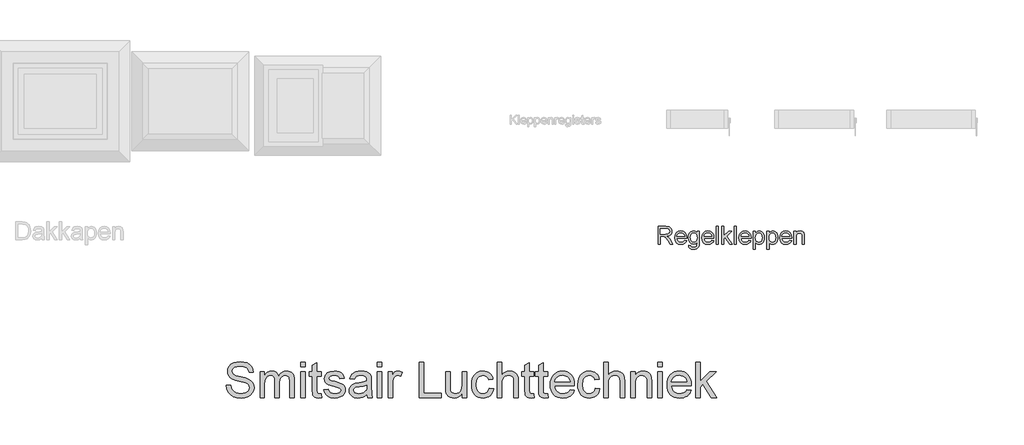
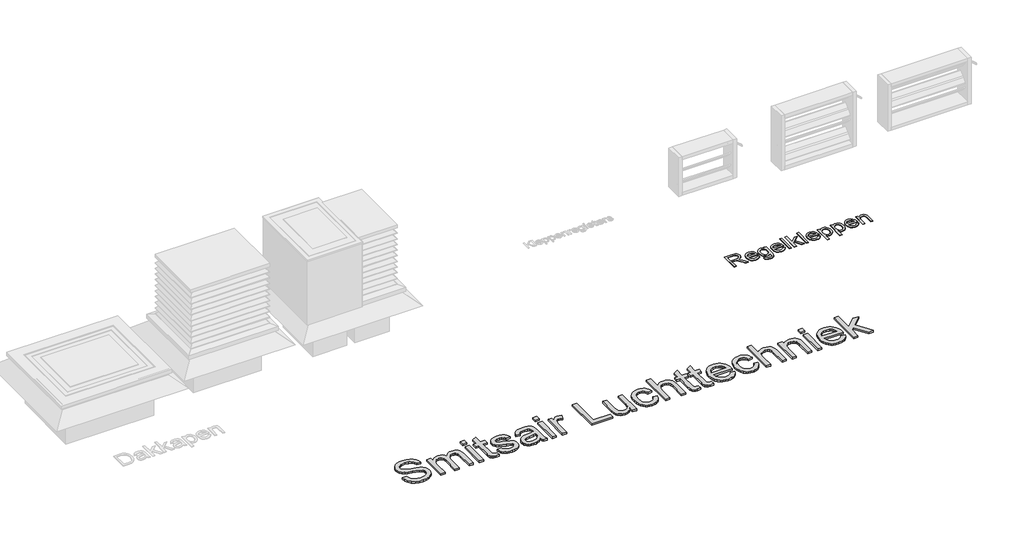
# One storey, part 5 of 10: 2 proxies.
"""IFC4 building model written with IfcOpenShell, lengths in millimetres."""

from ifc_helpers import new_model, si_unit, origin, origin_with_axes, place, context, project, spatial, polyline, outline, extrude, element, save

model = new_model("IFC4")

# Units and contexts
model_context = context("Model", 3, world=origin())
ifc_project = project(units=[si_unit("LENGTHUNIT", "METRE", prefix="MILLI")], contexts=[model_context])

# Site, building, storey
site = spatial("IfcSite", under=ifc_project)
building = spatial("IfcBuilding", under=site)
storey = spatial("IfcBuildingStorey", under=building, Name="Ventilatieroosters", Elevation=0.0)

# Proxies
placement = place(None, origin())
element("IfcBuildingElementProxy", 1, Name="200mm", ObjectType="200mm", at=placement, inside=storey, context=model_context, shape_type="SweptSolid", body=[
    extrude(outline(polyline([(12075.8280832, -16419.2793753), (12075.8280832, -16222.3562984), (12160.6838524, -16222.3562984), (12183.4903428, -16223.6844234), (12200.0828909, -16227.6687984), (12212.2102947, -16235.0245676), (12221.6213524, -16246.4668753), (12227.6610159, -16260.6555772), (12229.674237, -16276.2505291), (12226.3389005, -16295.6495676), (12216.3328909, -16311.7312984), (12199.3557274, -16323.5221637), (12175.1069293, -16330.048606), (12189.0973139, -16340.5774522), (12209.049237, -16365.9139907), (12241.8857755, -16419.2793753), (12213.2800063, -16419.2793753), (12187.6550063, -16378.4620676), (12169.1453909, -16351.4428368), (12156.1405832, -16338.6784137), (12144.4338524, -16333.9909137), (12130.1550063, -16333.1255291), (12100.4434678, -16333.1255291), (12100.4434678, -16419.2793753), (12075.8280832, -16419.2793753)]), holes=[polyline([(12100.4434678, -16308.5101445), (12155.5396216, -16308.5101445), (12183.6405832, -16305.0245676), (12199.6021216, -16293.8707214), (12205.0588524, -16277.1639907), (12202.4566889, -16265.1567791), (12194.6501986, -16255.4812984), (12181.2187082, -16249.0990868), (12161.7415447, -16246.971683), (12100.4434678, -16246.971683), (12100.4434678, -16308.5101445)])]), origin_with_axes(), (0.0, 0.0, 1.0), 5.0),
    extrude(outline(polyline([(12370.924237, -16376.2024522), (12395.0588524, -16379.2793753), (12386.3629389, -16397.4644714), (12372.486737, -16411.0582214), (12353.7427466, -16419.5317791), (12330.4434678, -16422.3562984), (12301.5612563, -16417.4825003), (12279.3376986, -16402.861106), (12265.1670255, -16379.4416349), (12260.4434678, -16348.173606), (12265.2151024, -16315.8538945), (12279.5300063, -16291.6832214), (12301.4530832, -16276.611106), (12329.049237, -16271.5870676), (12355.7860159, -16276.5990868), (12377.1501986, -16291.6351445), (12391.158612, -16315.7577407), (12395.8280832, -16348.0293753), (12395.6838524, -16354.6639907), (12285.0588524, -16354.6639907), (12289.3196697, -16373.0894714), (12299.2175063, -16386.6351445), (12313.502362, -16394.9644714), (12330.924237, -16397.7409137), (12355.0588524, -16392.596683), (12364.0251986, -16385.9260099), (12370.924237, -16376.2024522)]), holes=[polyline([(12285.0588524, -16330.048606), (12371.2126986, -16330.048606), (12367.8833716, -16317.0437984), (12361.3569293, -16307.7409137), (12347.0059678, -16299.0870676), (12328.9530832, -16296.2024522), (12312.3605351, -16298.5041349), (12298.6405832, -16305.409183), (12289.1033236, -16316.1724041), (12285.0588524, -16330.048606)])]), origin_with_axes(), (0.0, 0.0, 1.0), 5.0),
    extrude(outline(polyline([(12414.2896216, -16431.5870676), (12438.9050063, -16434.6639907), (12441.6213524, -16442.3562984), (12446.8857755, -16447.6447599), (12457.2343332, -16451.7553368), (12470.7800063, -16453.1255291), (12485.2271216, -16451.5750484), (12495.9723139, -16446.923606), (12503.424237, -16439.471683), (12507.9915447, -16429.5197599), (12509.674237, -16400.8178368), (12492.3425063, -16414.6639907), (12471.2126986, -16419.2793753), (12445.8340928, -16413.9067791), (12426.9098139, -16397.7889907), (12415.1369774, -16374.159183), (12411.2126986, -16346.2505291), (12412.9735159, -16326.376731), (12418.2559678, -16308.1014907), (12426.8737563, -16292.6147118), (12438.6405832, -16281.1062984), (12453.1538043, -16273.9668753), (12470.0107755, -16271.5870676), (12491.9699101, -16276.971683), (12509.674237, -16293.1255291), (12509.674237, -16274.6639907), (12534.2896216, -16274.6639907), (12534.2896216, -16399.5197599), (12532.6069293, -16428.3478849), (12527.5588524, -16447.3322599), (12518.8629389, -16459.9224041), (12506.236737, -16469.5678368), (12489.9566889, -16475.6976445), (12470.299237, -16477.7409137), (12447.3965928, -16474.862308), (12429.361737, -16466.2264907), (12417.7932274, -16451.8094234), (12414.2896216, -16431.5870676)]), holes=[polyline([(12435.8280832, -16344.5678368), (12438.4542851, -16367.1459618), (12446.3328909, -16382.6687984), (12458.1778428, -16391.6651926), (12472.7030832, -16394.6639907), (12487.1201505, -16391.6832214), (12499.0251986, -16382.7409137), (12507.0119774, -16367.4163945), (12509.674237, -16345.2889907), (12506.9338524, -16323.9488464), (12498.7126986, -16308.5822599), (12486.6333716, -16299.2974041), (12472.3184678, -16296.2024522), (12458.2619774, -16299.2493272), (12446.4771216, -16308.3899522), (12438.4903428, -16323.5281734), (12435.8280832, -16344.5678368)])]), origin_with_axes(), (0.0, 0.0, 1.0), 5.0),
    extrude(outline(polyline([(12672.4626986, -16376.2024522), (12696.5973139, -16379.2793753), (12687.9014005, -16397.4644714), (12674.0251986, -16411.0582214), (12655.2812082, -16419.5317791), (12631.9819293, -16422.3562984), (12603.0997178, -16417.4825003), (12580.8761601, -16402.861106), (12566.705487, -16379.4416349), (12561.9819293, -16348.173606), (12566.7535639, -16315.8538945), (12581.0684678, -16291.6832214), (12602.9915447, -16276.611106), (12630.5876986, -16271.5870676), (12657.3244774, -16276.5990868), (12678.6886601, -16291.6351445), (12692.6970736, -16315.7577407), (12697.3665447, -16348.0293753), (12697.2223139, -16354.6639907), (12586.5973139, -16354.6639907), (12590.8581313, -16373.0894714), (12600.7559678, -16386.6351445), (12615.0408236, -16394.9644714), (12632.4626986, -16397.7409137), (12656.5973139, -16392.596683), (12665.5636601, -16385.9260099), (12672.4626986, -16376.2024522)]), holes=[polyline([(12586.5973139, -16330.048606), (12672.7511601, -16330.048606), (12669.4218332, -16317.0437984), (12662.8953909, -16307.7409137), (12648.5444293, -16299.0870676), (12630.4915447, -16296.2024522), (12613.8989966, -16298.5041349), (12600.1790447, -16305.409183), (12590.6417851, -16316.1724041), (12586.5973139, -16330.048606)])]), origin_with_axes(), (0.0, 0.0, 1.0), 5.0),
    extrude(outline(polyline([(12721.9819293, -16419.2793753), (12721.9819293, -16222.3562984), (12746.5973139, -16222.3562984), (12746.5973139, -16419.2793753), (12721.9819293, -16419.2793753)])), origin_with_axes(), (0.0, 0.0, 1.0), 5.0),
    extrude(outline(polyline([(12783.5203909, -16419.2793753), (12783.5203909, -16222.3562984), (12808.1357755, -16222.3562984), (12808.1357755, -16328.173606), (12863.3280832, -16274.6639907), (12897.3665447, -16274.6639907), (12841.5011601, -16328.846683), (12900.4434678, -16419.2793753), (12871.6934678, -16419.2793753), (12823.8569293, -16345.9620676), (12808.1357755, -16361.2024522), (12808.1357755, -16419.2793753), (12783.5203909, -16419.2793753)])), origin_with_axes(), (0.0, 0.0, 1.0), 5.0),
    extrude(outline(polyline([(12921.9819293, -16419.2793753), (12921.9819293, -16222.3562984), (12946.5973139, -16222.3562984), (12946.5973139, -16419.2793753), (12921.9819293, -16419.2793753)])), origin_with_axes(), (0.0, 0.0, 1.0), 5.0),
    extrude(outline(polyline([(13084.7703909, -16376.2024522), (13108.9050063, -16379.2793753), (13100.2090928, -16397.4644714), (13086.3328909, -16411.0582214), (13067.5889005, -16419.5317791), (13044.2896216, -16422.3562984), (13015.4074101, -16417.4825003), (12993.1838524, -16402.861106), (12979.0131793, -16379.4416349), (12974.2896216, -16348.173606), (12979.0612563, -16315.8538945), (12993.3761601, -16291.6832214), (13015.299237, -16276.611106), (13042.8953909, -16271.5870676), (13069.6321697, -16276.5990868), (13090.9963524, -16291.6351445), (13105.0047659, -16315.7577407), (13109.674237, -16348.0293753), (13109.5300063, -16354.6639907), (12998.9050063, -16354.6639907), (13003.1658236, -16373.0894714), (13013.0636601, -16386.6351445), (13027.3485159, -16394.9644714), (13044.7703909, -16397.7409137), (13068.9050063, -16392.596683), (13077.8713524, -16385.9260099), (13084.7703909, -16376.2024522)]), holes=[polyline([(12998.9050063, -16330.048606), (13085.0588524, -16330.048606), (13081.7295255, -16317.0437984), (13075.2030832, -16307.7409137), (13060.8521216, -16299.0870676), (13042.799237, -16296.2024522), (13026.2066889, -16298.5041349), (13012.486737, -16305.409183), (13002.9494774, -16316.1724041), (12998.9050063, -16330.048606)])]), origin_with_axes(), (0.0, 0.0, 1.0), 5.0),
    extrude(outline(polyline([(13134.2896216, -16474.6639907), (13134.2896216, -16274.6639907), (13158.9050063, -16274.6639907), (13158.9050063, -16298.798606), (13175.924237, -16278.3899522), (13186.4050063, -16273.2877887), (13198.9050063, -16271.5870676), (13215.5516409, -16273.9668753), (13230.1069293, -16281.1062984), (13241.9578909, -16292.5726445), (13250.4915447, -16307.9332214), (13255.6477947, -16326.0702407), (13257.3665447, -16345.8659137), (13255.4254389, -16366.9175964), (13249.6021216, -16385.7457214), (13240.0828909, -16401.3947599), (13227.0540447, -16412.909183), (13211.8797659, -16419.9945195), (13195.924237, -16422.3562984), (13184.6081313, -16420.7757695), (13174.5059678, -16416.034183), (13158.9050063, -16400.048606), (13158.9050063, -16474.6639907), (13134.2896216, -16474.6639907)]), holes=[polyline([(13158.9050063, -16348.1255291), (13161.5672659, -16370.1928368), (13169.5540447, -16385.6255291), (13181.3389005, -16394.7120676), (13195.3953909, -16397.7409137), (13209.6802466, -16394.6038945), (13221.7655832, -16385.1928368), (13230.0047659, -16369.1952407), (13232.7511601, -16346.298606), (13230.0708716, -16324.3514907), (13222.0300063, -16308.7024522), (13210.2631793, -16299.3274522), (13196.4050063, -16296.2024522), (13182.4927466, -16299.5257695), (13170.2751986, -16309.4957214), (13161.7475543, -16325.799808), (13158.9050063, -16348.1255291)])]), origin_with_axes(), (0.0, 0.0, 1.0), 5.0),
    extrude(outline(polyline([(13285.0588524, -16474.6639907), (13285.0588524, -16274.6639907), (13309.674237, -16274.6639907), (13309.674237, -16298.798606), (13326.6934678, -16278.3899522), (13337.174237, -16273.2877887), (13349.674237, -16271.5870676), (13366.3208716, -16273.9668753), (13380.8761601, -16281.1062984), (13392.7271216, -16292.5726445), (13401.2607755, -16307.9332214), (13406.4170255, -16326.0702407), (13408.1357755, -16345.8659137), (13406.1946697, -16366.9175964), (13400.3713524, -16385.7457214), (13390.8521216, -16401.3947599), (13377.8232755, -16412.909183), (13362.6489966, -16419.9945195), (13346.6934678, -16422.3562984), (13335.377362, -16420.7757695), (13325.2751986, -16416.034183), (13309.674237, -16400.048606), (13309.674237, -16474.6639907), (13285.0588524, -16474.6639907)]), holes=[polyline([(13309.674237, -16348.1255291), (13312.3364966, -16370.1928368), (13320.3232755, -16385.6255291), (13332.1081313, -16394.7120676), (13346.1646216, -16397.7409137), (13360.4494774, -16394.6038945), (13372.5348139, -16385.1928368), (13380.7739966, -16369.1952407), (13383.5203909, -16346.298606), (13380.8401024, -16324.3514907), (13372.799237, -16308.7024522), (13361.0324101, -16299.3274522), (13347.174237, -16296.2024522), (13333.2619774, -16299.5257695), (13321.0444293, -16309.4957214), (13312.5167851, -16325.799808), (13309.674237, -16348.1255291)])]), origin_with_axes(), (0.0, 0.0, 1.0), 5.0),
    extrude(outline(polyline([(13537.0780832, -16376.2024522), (13561.2126986, -16379.2793753), (13552.5167851, -16397.4644714), (13538.6405832, -16411.0582214), (13519.8965928, -16419.5317791), (13496.5973139, -16422.3562984), (13467.7151024, -16417.4825003), (13445.4915447, -16402.861106), (13431.3208716, -16379.4416349), (13426.5973139, -16348.173606), (13431.3689486, -16315.8538945), (13445.6838524, -16291.6832214), (13467.6069293, -16276.611106), (13495.2030832, -16271.5870676), (13521.939862, -16276.5990868), (13543.3040447, -16291.6351445), (13557.3124582, -16315.7577407), (13561.9819293, -16348.0293753), (13561.8376986, -16354.6639907), (13451.2126986, -16354.6639907), (13455.4735159, -16373.0894714), (13465.3713524, -16386.6351445), (13479.6562082, -16394.9644714), (13497.0780832, -16397.7409137), (13521.2126986, -16392.596683), (13530.1790447, -16385.9260099), (13537.0780832, -16376.2024522)]), holes=[polyline([(13451.2126986, -16330.048606), (13537.3665447, -16330.048606), (13534.0372178, -16317.0437984), (13527.5107755, -16307.7409137), (13513.1598139, -16299.0870676), (13495.1069293, -16296.2024522), (13478.5143813, -16298.5041349), (13464.7944293, -16305.409183), (13455.2571697, -16316.1724041), (13451.2126986, -16330.048606)])]), origin_with_axes(), (0.0, 0.0, 1.0), 5.0),
    extrude(outline(polyline([(13586.5973139, -16419.2793753), (13586.5973139, -16274.6639907), (13611.2126986, -16274.6639907), (13611.2126986, -16294.8562984), (13619.7643813, -16284.6760099), (13630.0348139, -16277.4043753), (13642.0239966, -16273.0413945), (13655.7319293, -16271.5870676), (13678.9771216, -16276.2745676), (13694.8425063, -16288.5822599), (13702.2223139, -16306.6832214), (13703.5203909, -16330.4812984), (13703.5203909, -16419.2793753), (13678.9050063, -16419.2793753), (13678.9050063, -16333.798606), (13676.0684678, -16312.0197599), (13666.0444293, -16300.5053368), (13649.1453909, -16296.2024522), (13634.7283236, -16298.6183176), (13622.4386601, -16305.8659137), (13614.0191889, -16319.8683176), (13611.2126986, -16342.548606), (13611.2126986, -16419.2793753), (13586.5973139, -16419.2793753)])), origin_with_axes(), (0.0, 0.0, 1.0), 5.0),
])
element("IfcBuildingElementProxy", 2, Name="400mm", ObjectType="400mm", at=placement, inside=storey, context=model_context, shape_type="SweptSolid", body=[
    extrude(outline(polyline([(7278.3302361, -17988.9829215), (7327.2999331, -17988.9829215), (7332.9190145, -18016.1577558), (7343.0811831, -18038.0004404), (7358.934166, -18055.3359045), (7381.6256907, -18068.9890768), (7409.3624331, -18077.8480967), (7440.3510695, -18080.8011033), (7467.6335032, -18078.5654262), (7491.520577, -18071.858395), (7510.8765193, -18061.2419177), (7524.5655581, -18047.2779026), (7532.7072484, -18031.2455872), (7535.4211452, -18014.4242094), (7533.3887115, -17998.0332293), (7527.2914104, -17983.8659708), (7514.9055202, -17971.7789679), (7494.0073195, -17961.6287548), (7422.7047626, -17942.9303647), (7375.8990098, -17930.55643), (7345.9505013, -17918.78027), (7321.5732522, -17902.3056014), (7304.2975657, -17882.3399291), (7294.0038867, -17859.3136507), (7290.5726604, -17833.6571639), (7294.8168602, -17804.9759376), (7307.5494596, -17778.2315011), (7328.4357049, -17755.5638874), (7357.1408422, -17739.1131298), (7391.5965713, -17729.1063827), (7429.7345922, -17725.7708003), (7471.052774, -17729.2618041), (7507.2061831, -17739.7348154), (7536.9036263, -17756.9746355), (7558.8539104, -17780.7660654), (7572.7461926, -17809.6266242), (7578.2696301, -17842.0738306), (7529.2999331, -17842.0738306), (7520.3094028, -17812.8546071), (7501.5631907, -17791.7651185), (7472.2722342, -17778.9966526), (7431.647471, -17774.7404973), (7390.0662683, -17778.9488306), (7374.1714411, -17784.2092473), (7361.5404634, -17791.5738306), (7345.0418838, -17810.1526658), (7339.5423573, -17832.2225048), (7343.4398479, -17851.0404499), (7355.1323195, -17866.1761033), (7382.7734179, -17879.7097208), (7435.0906528, -17893.53027), (7489.0816566, -17906.6574007), (7521.7440619, -17918.1107624), (7549.6601367, -17935.8766242), (7569.1356338, -17957.8029973), (7580.5770401, -17983.6507719), (7584.3908422, -18013.1808382), (7580.0031765, -18043.3684565), (7566.8401793, -18071.7627511), (7545.4398479, -18096.1997776), (7516.3401793, -18114.515592), (7481.346453, -18125.9569982), (7442.2639482, -18129.7708003), (7394.2865571, -18125.6581109), (7354.7975657, -18113.3200427), (7323.3426651, -18092.7087738), (7299.4675467, -18063.7764821), (7284.1406054, -18028.5316904), (7278.3302361, -17988.9829215)])), origin_with_axes(), (0.0, 0.0, 1.0), 20.0),
    extrude(outline(polyline([(7651.7241755, -18123.6495882), (7651.7241755, -17835.9526185), (7700.6938725, -17835.9526185), (7700.6938725, -17883.2963685), (7715.4230392, -17861.5493278), (7734.3605392, -17844.5127511), (7756.8607759, -17833.5017425), (7782.2781528, -17829.8314064), (7809.5127645, -17833.5734755), (7831.3434937, -17844.7996829), (7847.6507854, -17862.768788), (7858.3150846, -17886.7395503), (7876.1646348, -17861.8422373), (7896.5248384, -17844.0584423), (7919.3956954, -17833.3881654), (7944.7772058, -17829.8314064), (7964.3812245, -17831.3108985), (7981.588167, -17835.7493751), (7996.3980332, -17843.146836), (8008.8108232, -17853.5032814), (8018.6232936, -17866.938266), (8025.6322011, -17883.5713448), (8029.8375455, -17903.4025179), (8031.239327, -17926.4317851), (8031.239327, -18123.6495882), (7982.2696301, -18123.6495882), (7982.2696301, -17947.4734518), (7977.7265429, -17906.5856677), (7971.34231, -17895.3116384), (7961.2757854, -17886.4526185), (7948.3279871, -17880.7139821), (7933.2999331, -17878.8011033), (7906.7706954, -17883.7028552), (7885.1432096, -17898.4081109), (7876.7534428, -17909.688118), (7870.7607522, -17923.9211317), (7865.9665998, -17961.2461791), (7865.9665998, -18123.6495882), (7816.9969028, -18123.6495882), (7816.9969028, -17942.0217473), (7814.1634511, -17914.3328268), (7805.663096, -17894.5823533), (7790.7067749, -17882.7464158), (7768.5054255, -17878.8011033), (7749.6396585, -17881.4313117), (7732.2563725, -17889.3219367), (7717.9097816, -17902.2816904), (7708.1540998, -17920.1192851), (7702.5589293, -17944.8671545), (7700.6938725, -17978.5577321), (7700.6938725, -18123.6495882), (7651.7241755, -18123.6495882)])), origin_with_axes(), (0.0, 0.0, 1.0), 20.0),
    extrude(outline(polyline([(8104.6938725, -17780.8617094), (8104.6938725, -17731.8920124), (8153.6635695, -17731.8920124), (8153.6635695, -17780.8617094), (8104.6938725, -17780.8617094)])), origin_with_axes(), (0.0, 0.0, 1.0), 20.0),
    extrude(outline(polyline([(8104.6938725, -18123.6495882), (8104.6938725, -17835.9526185), (8153.6635695, -17835.9526185), (8153.6635695, -18123.6495882), (8104.6938725, -18123.6495882)])), origin_with_axes(), (0.0, 0.0, 1.0), 20.0),
    extrude(outline(polyline([(8331.178721, -18082.8096261), (8337.2999331, -18125.0842473), (8300.6683043, -18129.7708003), (8277.1638062, -18127.7383666), (8259.6370543, -18121.6410654), (8247.2511642, -18112.2440484), (8239.1692513, -18100.312467), (8234.7218081, -18079.8207529), (8233.239327, -18044.7433382), (8233.239327, -17884.9223154), (8196.5120543, -17884.9223154), (8196.5120543, -17835.9526185), (8233.239327, -17835.9526185), (8233.239327, -17766.0368988), (8282.209024, -17737.248073), (8282.209024, -17835.9526185), (8331.178721, -17835.9526185), (8331.178721, -17884.9223154), (8282.209024, -17884.9223154), (8282.209024, -18043.3086791), (8284.7914104, -18068.5586791), (8293.1602551, -18077.5013874), (8309.8501225, -18080.8011033), (8331.178721, -18082.8096261)])), origin_with_axes(), (0.0, 0.0, 1.0), 20.0),
    extrude(outline(polyline([(8361.7847816, -18037.9526185), (8410.7544785, -18031.8314064), (8418.4777267, -18052.7774291), (8433.4220922, -18068.1761033), (8455.6832191, -18077.6448533), (8485.3567513, -18080.8011033), (8514.6716187, -18077.9078742), (8535.2828876, -18069.2281867), (8547.4774899, -18056.6510086), (8551.5423573, -18042.0653079), (8547.4535789, -18029.5837738), (8535.1872437, -18020.0672018), (8484.7828876, -18006.1031867), (8411.0414104, -17982.1443798), (8392.3788867, -17970.105199), (8378.8572248, -17954.1685276), (8370.6438015, -17935.3505825), (8367.9059937, -17914.6675806), (8370.1058043, -17895.6942141), (8376.7052361, -17878.1794177), (8387.1065145, -17862.81661), (8400.7118649, -17850.2992094), (8431.8439672, -17835.8091526), (8473.9751225, -17829.8314064), (8505.8484653, -17832.2344603), (8533.5612967, -17839.4436223), (8555.8463346, -17850.7535181), (8571.4362967, -17865.4587738), (8581.7658422, -17884.6473391), (8588.2696301, -17909.4071639), (8539.2999331, -17915.5283761), (8533.1189435, -17900.1177463), (8520.8884748, -17888.5089632), (8502.4889719, -17881.2280683), (8477.8008801, -17878.8011033), (8449.6815619, -17881.1204689), (8430.9353498, -17888.0785654), (8420.3906054, -17898.1211791), (8416.8756907, -17909.6940958), (8422.709971, -17923.9450427), (8440.9779634, -17934.7528079), (8483.1569407, -17945.1779973), (8555.0333611, -17968.2281867), (8574.0186831, -17979.2511507), (8588.413096, -17994.3389821), (8597.4873147, -18013.5395029), (8600.5120543, -18036.9005351), (8596.9612731, -18061.0506298), (8586.3089293, -18083.7660654), (8568.9615098, -18103.2654736), (8545.3255013, -18117.7674859), (8516.7757854, -18126.7699717), (8484.6872437, -18129.7708003), (8458.3313606, -18128.3241857), (8435.31106, -18123.984342), (8415.6263417, -18116.751269), (8399.2772058, -18106.624967), (8385.9229208, -18093.6532577), (8375.2227551, -18077.8839632), (8367.1767087, -18059.3170834), (8361.7847816, -18037.9526185)])), origin_with_axes(), (0.0, 0.0, 1.0), 20.0),
    extrude(outline(polyline([(8839.239327, -18086.9223154), (8815.8424284, -18106.9836317), (8791.7521111, -18120.1107624), (8766.4184227, -18127.3557908), (8739.2914104, -18129.7708003), (8717.4875811, -18128.318208), (8698.3677598, -18123.960431), (8681.9319466, -18116.6974693), (8668.1801414, -18106.529323), (8657.3215654, -18094.1015887), (8649.5654397, -18080.0598628), (8644.9117643, -18064.4041455), (8643.3605392, -18047.1344367), (8645.7038157, -18026.8340105), (8652.7336452, -18008.3986412), (8663.5772768, -17992.6173912), (8677.3619596, -17980.279323), (8711.6503119, -17964.2111412), (8754.020577, -17956.8465579), (8804.0901793, -17949.0993988), (8838.9523952, -17940.0132245), (8839.239327, -17929.1098154), (8835.8678782, -17907.2551753), (8825.7535316, -17892.9564064), (8803.1337399, -17882.3399291), (8771.6190619, -17878.8011033), (8742.4476604, -17881.1563353), (8722.0755013, -17888.2220314), (8708.1832191, -17901.2893846), (8698.4514482, -17921.6495882), (8649.4817513, -17915.5283761), (8657.9821064, -17888.748073), (8670.6668838, -17867.7064064), (8688.7196774, -17851.6143136), (8713.3240808, -17839.6827321), (8743.4160552, -17832.2942378), (8777.9315619, -17829.8314064), (8811.0363204, -17832.007306), (8837.2786263, -17838.5350048), (8857.0649662, -17848.3504641), (8870.801827, -17860.389645), (8879.9119123, -17875.2742331), (8885.8179255, -17893.6259139), (8888.209024, -17936.4743988), (8888.209024, -17997.3995882), (8890.6957664, -18082.4748723), (8900.4514482, -18123.6495882), (8851.4817513, -18123.6495882), (8843.6389482, -18106.624967), (8839.239327, -18086.9223154)]), holes=[polyline([(8839.239327, -17988.9829215), (8806.3378119, -17997.1365673), (8760.2374331, -18003.99902), (8718.1062778, -18011.937467), (8707.1430912, -18017.3652605), (8699.0253119, -18024.8493988), (8694.0040051, -18033.8160181), (8692.3302361, -18043.6912548), (8695.9766613, -18058.2530446), (8706.9159369, -18070.1846261), (8724.908953, -18078.146984), (8749.7165998, -18080.8011033), (8776.0186831, -18077.8720077), (8799.2601604, -18069.0847208), (8818.1020164, -18056.1369225), (8831.2052361, -18040.7262927), (8837.0156054, -18024.8493988), (8838.9523952, -18002.8512927), (8839.239327, -17988.9829215)])]), origin_with_axes(), (0.0, 0.0, 1.0), 20.0),
    extrude(outline(polyline([(8955.5423573, -17780.8617094), (8955.5423573, -17731.8920124), (9004.5120543, -17731.8920124), (9004.5120543, -17780.8617094), (8955.5423573, -17780.8617094)])), origin_with_axes(), (0.0, 0.0, 1.0), 20.0),
    extrude(outline(polyline([(8955.5423573, -18123.6495882), (8955.5423573, -17835.9526185), (9004.5120543, -17835.9526185), (9004.5120543, -18123.6495882), (8955.5423573, -18123.6495882)])), origin_with_axes(), (0.0, 0.0, 1.0), 20.0),
    extrude(outline(polyline([(9077.9665998, -18123.6495882), (9077.9665998, -17835.9526185), (9120.8150846, -17835.9526185), (9120.8150846, -17878.5141715), (9136.6441566, -17853.8380351), (9151.2298573, -17839.3001564), (9165.8633801, -17832.1985939), (9181.8359179, -17829.8314064), (9206.2251225, -17833.609342), (9230.9969028, -17844.9431488), (9214.6417892, -17888.843717), (9197.4258801, -17881.3117567), (9180.209971, -17878.8011033), (9165.5884037, -17881.2161128), (9152.5210505, -17888.4611412), (9141.9643507, -17899.9862359), (9134.8747437, -17915.2414442), (9128.9209085, -17942.5956109), (9126.9362967, -17972.43652), (9126.9362967, -18123.6495882), (9077.9665998, -18123.6495882)])), origin_with_axes(), (0.0, 0.0, 1.0), 20.0),
    extrude(outline(polyline([(9420.7544785, -18123.6495882), (9420.7544785, -17731.8920124), (9469.7241755, -17731.8920124), (9469.7241755, -18074.6798912), (9665.6029634, -18074.6798912), (9665.6029634, -18123.6495882), (9420.7544785, -18123.6495882)])), origin_with_axes(), (0.0, 0.0, 1.0), 20.0),
    extrude(outline(polyline([(9898.209024, -18123.6495882), (9898.209024, -18074.2016715), (9880.4909842, -18098.5131654), (9859.8558043, -18115.8785181), (9836.3034842, -18126.2977297), (9809.834024, -18129.7708003), (9785.9828166, -18127.3318798), (9763.7814672, -18120.0151185), (9745.15481, -18109.0160654), (9732.0276793, -18095.53027), (9723.1925704, -18079.1512454), (9717.4419785, -18059.4725048), (9714.5726604, -18013.9459897), (9714.5726604, -17835.9526185), (9763.5423573, -17835.9526185), (9763.5423573, -17990.8958003), (9766.5073195, -18040.8219367), (9773.6447484, -18057.4759376), (9785.8752172, -18070.1368041), (9802.3857522, -18078.1350285), (9822.3633801, -18080.8011033), (9843.4887352, -18078.0752511), (9863.2511642, -18069.8976942), (9879.5465003, -18057.0216289), (9890.270577, -18040.2002511), (9896.2244123, -18017.1620172), (9898.209024, -17985.6353836), (9898.209024, -17835.9526185), (9947.178721, -17835.9526185), (9947.178721, -18123.6495882), (9898.209024, -18123.6495882)])), origin_with_axes(), (0.0, 0.0, 1.0), 20.0),
    extrude(outline(polyline([(10198.1484179, -18019.5889821), (10247.1181149, -18025.7101942), (10241.791943, -18048.8171722), (10233.4649426, -18069.2640531), (10222.1371135, -18087.050837), (10207.8084558, -18102.1775238), (10191.0827219, -18114.2495823), (10172.5636642, -18122.8724812), (10152.2512825, -18128.0462205), (10130.145577, -18129.7708003), (10102.6808221, -18127.3647574), (10078.0554965, -18120.1466289), (10056.2696005, -18108.1164146), (10037.3231338, -18091.2741147), (10021.9872259, -18069.9365496), (10011.033006, -18044.4205399), (10004.460474, -18014.7260856), (10002.2696301, -17980.8531867), (10006.0116992, -17937.2754168), (10017.2379066, -17899.5080162), (10036.1275846, -17869.009555), (10062.8600657, -17847.2386033), (10094.8410079, -17834.1832056), (10129.4760695, -17829.8314064), (10151.2021881, -17831.3258429), (10170.8540287, -17835.8091526), (10188.4315915, -17843.2813353), (10203.9348763, -17853.7423912), (10217.1008623, -17866.9532103), (10227.6665287, -17882.6746829), (10235.6318756, -17900.9068088), (10240.9969028, -17921.6495882), (10192.0272058, -17927.7708003), (10183.1442749, -17906.4063353), (10169.3117702, -17891.0913495), (10151.2948431, -17881.8736649), (10129.8586452, -17878.8011033), (10113.2195886, -17880.3134731), (10098.2124568, -17884.8505825), (10084.8372496, -17892.4124315), (10073.0939672, -17902.99902), (10063.5325621, -17916.8554357), (10056.7029871, -17934.2267662), (10051.239327, -17979.5141715), (10056.5834321, -18025.4113069), (10063.2635635, -18042.8992035), (10072.6157475, -18056.7466526), (10084.1258978, -18067.2704748), (10097.2799284, -18074.7874906), (10112.0778391, -18079.2977002), (10128.5196301, -18080.8011033), (10153.8772295, -18077.0470787), (10174.6678308, -18065.7850048), (10189.7915287, -18046.7279499), (10198.1484179, -18019.5889821)])), origin_with_axes(), (0.0, 0.0, 1.0), 20.0),
    extrude(outline(polyline([(10289.9665998, -18123.6495882), (10289.9665998, -17731.8920124), (10338.9362967, -17731.8920124), (10338.9362967, -17875.9317851), (10356.9233351, -17855.7628694), (10377.1221395, -17841.3565011), (10399.5327101, -17832.71268), (10424.1550467, -17829.8314064), (10453.732935, -17832.9757009), (10479.1503119, -17842.4085844), (10499.1638062, -17857.3888164), (10512.5300467, -17877.1751564), (10520.062007, -17904.3619461), (10522.5726604, -17941.5435276), (10522.5726604, -18123.6495882), (10473.6029634, -18123.6495882), (10473.6029634, -17946.6126564), (10469.7054729, -17915.9587738), (10458.0130013, -17894.9649291), (10439.1711452, -17882.8420598), (10413.8255013, -17878.8011033), (10393.1305439, -17881.5269556), (10373.7028687, -17889.7045124), (10357.6107759, -17902.5447113), (10346.9225657, -17919.2584897), (10340.932864, -17941.4717946), (10338.9362967, -17970.810573), (10338.9362967, -18123.6495882), (10289.9665998, -18123.6495882)])), origin_with_axes(), (0.0, 0.0, 1.0), 20.0),
    extrude(outline(polyline([(10693.9665998, -18082.8096261), (10700.0878119, -18125.0842473), (10663.4561831, -18129.7708003), (10639.951685, -18127.7383666), (10622.4249331, -18121.6410654), (10610.0390429, -18112.2440484), (10601.9571301, -18100.312467), (10597.5096869, -18079.8207529), (10596.0272058, -18044.7433382), (10596.0272058, -17884.9223154), (10559.2999331, -17884.9223154), (10559.2999331, -17835.9526185), (10596.0272058, -17835.9526185), (10596.0272058, -17766.0368988), (10644.9969028, -17737.248073), (10644.9969028, -17835.9526185), (10693.9665998, -17835.9526185), (10693.9665998, -17884.9223154), (10644.9969028, -17884.9223154), (10644.9969028, -18043.3086791), (10647.5792892, -18068.5586791), (10655.9481338, -18077.5013874), (10672.6380013, -18080.8011033), (10693.9665998, -18082.8096261)])), origin_with_axes(), (0.0, 0.0, 1.0), 20.0),
    extrude(outline(polyline([(10846.9969028, -18082.8096261), (10853.1181149, -18125.0842473), (10816.4864861, -18129.7708003), (10792.981988, -18127.7383666), (10775.4552361, -18121.6410654), (10763.069346, -18112.2440484), (10754.9874331, -18100.312467), (10750.5399899, -18079.8207529), (10749.0575088, -18044.7433382), (10749.0575088, -17884.9223154), (10712.3302361, -17884.9223154), (10712.3302361, -17835.9526185), (10749.0575088, -17835.9526185), (10749.0575088, -17766.0368988), (10798.0272058, -17737.248073), (10798.0272058, -17835.9526185), (10846.9969028, -17835.9526185), (10846.9969028, -17884.9223154), (10798.0272058, -17884.9223154), (10798.0272058, -18043.3086791), (10800.6095922, -18068.5586791), (10808.9784369, -18077.5013874), (10825.6683043, -18080.8011033), (10846.9969028, -18082.8096261)])), origin_with_axes(), (0.0, 0.0, 1.0), 20.0),
    extrude(outline(polyline([(11097.3927361, -18037.9526185), (11145.4059937, -18044.0738306), (11138.0443992, -18063.3042402), (11128.1063962, -18080.2511507), (11115.5919845, -18094.9145621), (11100.5011642, -18107.2944745), (11082.9893566, -18117.1278671), (11063.2119833, -18124.1517189), (11016.8605392, -18129.7708003), (10986.4756552, -18127.3468242), (10959.4024426, -18120.0748959), (10935.6409014, -18107.9550155), (10915.1910316, -18090.9871829), (10898.7462517, -18069.64364), (10886.9999804, -18044.3966289), (10879.9522177, -18015.2461495), (10877.6029634, -17982.1922018), (10879.9761286, -17948.0174267), (10887.0956244, -17917.8955636), (10898.9614506, -17891.8266123), (10915.5736073, -17869.810573), (10935.9696774, -17852.3196876), (10959.1872437, -17839.826198), (10985.2263062, -17832.3301043), (11014.0868649, -17829.8314064), (11042.0178841, -17832.3241265), (11067.2768507, -17839.802287), (11089.8637648, -17852.2658879), (11109.7786263, -17869.7149291), (11126.0351071, -17891.6831464), (11137.6468791, -17917.7042757), (11144.6139423, -17947.7783169), (11146.9362967, -17981.90527), (11146.6493649, -17995.1041336), (10926.5726604, -17995.1041336), (10929.4091009, -18014.645386), (10935.0491045, -18031.7596734), (10943.492671, -18046.4469958), (10954.7398005, -18058.7073533), (10983.158006, -18075.2776658), (11017.8169785, -18080.8011033), (11043.879952, -18078.2426279), (11065.8302361, -18070.5672018), (11083.6678308, -18057.2966052), (11097.3927361, -18037.9526185)]), holes=[polyline([(10926.5726604, -17946.1344367), (11097.9665998, -17946.1344367), (11091.343257, -17920.2627511), (11078.3595922, -17901.7556488), (11065.0053071, -17891.7130351), (11049.8098763, -17884.5397397), (11013.895577, -17878.8011033), (10980.8864624, -17883.3800569), (10953.5920732, -17897.1169177), (10934.6187068, -17918.5292047), (10926.5726604, -17946.1344367)])]), origin_with_axes(), (0.0, 0.0, 1.0), 20.0),
    extrude(outline(polyline([(11379.5423573, -18019.5889821), (11428.5120543, -18025.7101942), (11423.1858824, -18048.8171722), (11414.858882, -18069.2640531), (11403.5310529, -18087.050837), (11389.2023952, -18102.1775238), (11372.4766613, -18114.2495823), (11353.9576035, -18122.8724812), (11333.6452219, -18128.0462205), (11311.5395164, -18129.7708003), (11284.0747615, -18127.3647574), (11259.4494359, -18120.1466289), (11237.6635399, -18108.1164146), (11218.7170732, -18091.2741147), (11203.3811653, -18069.9365496), (11192.4269454, -18044.4205399), (11185.8544134, -18014.7260856), (11183.6635695, -17980.8531867), (11187.4056386, -17937.2754168), (11198.631846, -17899.5080162), (11217.521524, -17869.009555), (11244.2540051, -17847.2386033), (11276.2349473, -17834.1832056), (11310.8700088, -17829.8314064), (11332.5961275, -17831.3258429), (11352.2479681, -17835.8091526), (11369.8255309, -17843.2813353), (11385.3288157, -17853.7423912), (11398.4948017, -17866.9532103), (11409.0604681, -17882.6746829), (11417.025815, -17900.9068088), (11422.3908422, -17921.6495882), (11373.4211452, -17927.7708003), (11364.5382143, -17906.4063353), (11350.7057096, -17891.0913495), (11332.6887825, -17881.8736649), (11311.2525846, -17878.8011033), (11294.613528, -17880.3134731), (11279.6063962, -17884.8505825), (11266.231189, -17892.4124315), (11254.4879066, -17902.99902), (11244.9265015, -17916.8554357), (11238.0969265, -17934.2267662), (11232.6332664, -17979.5141715), (11237.9773715, -18025.4113069), (11244.6575029, -18042.8992035), (11254.0096869, -18056.7466526), (11265.5198372, -18067.2704748), (11278.6738677, -18074.7874906), (11293.4717785, -18079.2977002), (11309.9135695, -18080.8011033), (11335.2711689, -18077.0470787), (11356.0617702, -18065.7850048), (11371.1854681, -18046.7279499), (11379.5423573, -18019.5889821)])), origin_with_axes(), (0.0, 0.0, 1.0), 20.0),
    extrude(outline(polyline([(11471.3605392, -18123.6495882), (11471.3605392, -17731.8920124), (11520.3302361, -17731.8920124), (11520.3302361, -17875.9317851), (11538.3172745, -17855.7628694), (11558.5160789, -17841.3565011), (11580.9266495, -17832.71268), (11605.5489861, -17829.8314064), (11635.1268744, -17832.9757009), (11660.5442513, -17842.4085844), (11680.5577456, -17857.3888164), (11693.9239861, -17877.1751564), (11701.4559463, -17904.3619461), (11703.9665998, -17941.5435276), (11703.9665998, -18123.6495882), (11654.9969028, -18123.6495882), (11654.9969028, -17946.6126564), (11651.0994123, -17915.9587738), (11639.4069407, -17894.9649291), (11620.5650846, -17882.8420598), (11595.2194407, -17878.8011033), (11574.5244833, -17881.5269556), (11555.0968081, -17889.7045124), (11539.0047153, -17902.5447113), (11528.3165051, -17919.2584897), (11522.3268034, -17941.4717946), (11520.3302361, -17970.810573), (11520.3302361, -18123.6495882), (11471.3605392, -18123.6495882)])), origin_with_axes(), (0.0, 0.0, 1.0), 20.0),
    extrude(outline(polyline([(11771.2999331, -18123.6495882), (11771.2999331, -17835.9526185), (11820.2696301, -17835.9526185), (11820.2696301, -17876.123073), (11837.2822958, -17855.8704689), (11857.7142323, -17841.404323), (11881.5654397, -17832.7246355), (11908.8359179, -17829.8314064), (11932.9740571, -17832.1627274), (11955.0797626, -17839.1566904), (11973.515132, -17849.9405446), (11986.6422626, -17863.6415389), (11995.5491045, -17880.2238069), (12001.3236073, -17899.6514821), (12003.9059937, -17946.9952321), (12003.9059937, -18123.6495882), (11954.9362967, -18123.6495882), (11954.9362967, -17953.5946639), (11953.5255486, -17928.272931), (11949.2933043, -17910.2679594), (11941.4863677, -17897.3679831), (11929.3515429, -17887.3612359), (11913.7974473, -17880.9411365), (11895.7326982, -17878.8011033), (11867.0514719, -17883.6072113), (11842.6024899, -17898.0255351), (11832.8318637, -17909.7957174), (11825.852845, -17925.8818325), (11821.6654338, -17946.2838803), (11820.2696301, -17971.0018609), (11820.2696301, -18123.6495882), (11771.2999331, -18123.6495882)])), origin_with_axes(), (0.0, 0.0, 1.0), 20.0),
    extrude(outline(polyline([(12071.239327, -17780.8617094), (12071.239327, -17731.8920124), (12120.209024, -17731.8920124), (12120.209024, -17780.8617094), (12071.239327, -17780.8617094)])), origin_with_axes(), (0.0, 0.0, 1.0), 20.0),
    extrude(outline(polyline([(12071.239327, -18123.6495882), (12071.239327, -17835.9526185), (12120.209024, -17835.9526185), (12120.209024, -18123.6495882), (12071.239327, -18123.6495882)])), origin_with_axes(), (0.0, 0.0, 1.0), 20.0),
    extrude(outline(polyline([(12395.0897058, -18037.9526185), (12443.1029634, -18044.0738306), (12435.7413689, -18063.3042402), (12425.8033659, -18080.2511507), (12413.2889542, -18094.9145621), (12398.1981338, -18107.2944745), (12380.6863263, -18117.1278671), (12360.908953, -18124.1517189), (12314.5575088, -18129.7708003), (12284.1726249, -18127.3468242), (12257.0994123, -18120.0748959), (12233.3378711, -18107.9550155), (12212.8880013, -18090.9871829), (12196.4432214, -18069.64364), (12184.6969501, -18044.3966289), (12177.6491874, -18015.2461495), (12175.2999331, -17982.1922018), (12177.6730983, -17948.0174267), (12184.7925941, -17917.8955636), (12196.6584203, -17891.8266123), (12213.270577, -17869.810573), (12233.6666471, -17852.3196876), (12256.8842134, -17839.826198), (12282.9232759, -17832.3301043), (12311.7838346, -17829.8314064), (12339.7148538, -17832.3241265), (12364.9738204, -17839.802287), (12387.5607345, -17852.2658879), (12407.475596, -17869.7149291), (12423.7320768, -17891.6831464), (12435.3438488, -17917.7042757), (12442.310912, -17947.7783169), (12444.6332664, -17981.90527), (12444.3463346, -17995.1041336), (12224.2696301, -17995.1041336), (12227.1060706, -18014.645386), (12232.7460742, -18031.7596734), (12241.1896407, -18046.4469958), (12252.4367702, -18058.7073533), (12280.8549757, -18075.2776658), (12315.5139482, -18080.8011033), (12341.5769217, -18078.2426279), (12363.5272058, -18070.5672018), (12381.3648005, -18057.2966052), (12395.0897058, -18037.9526185)]), holes=[polyline([(12224.2696301, -17946.1344367), (12395.6635695, -17946.1344367), (12389.0402267, -17920.2627511), (12376.0565619, -17901.7556488), (12362.7022768, -17891.7130351), (12347.506846, -17884.5397397), (12311.5925467, -17878.8011033), (12278.5834321, -17883.3800569), (12251.2890429, -17897.1169177), (12232.3156765, -17918.5292047), (12224.2696301, -17946.1344367)])]), origin_with_axes(), (0.0, 0.0, 1.0), 20.0),
    extrude(outline(polyline([(12493.6029634, -18123.6495882), (12493.6029634, -17731.8920124), (12542.5726604, -17731.8920124), (12542.5726604, -17942.404323), (12652.3719028, -17835.9526185), (12720.0878119, -17835.9526185), (12608.9495543, -17943.7433382), (12726.209024, -18123.6495882), (12669.0139482, -18123.6495882), (12573.8482285, -17977.7925806), (12542.5726604, -18008.1117094), (12542.5726604, -18123.6495882), (12493.6029634, -18123.6495882)])), origin_with_axes(), (0.0, 0.0, 1.0), 20.0),
])

save(model, "model.ifc")
